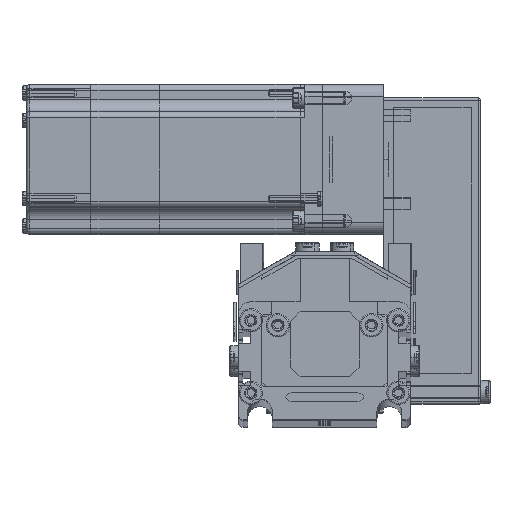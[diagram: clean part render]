
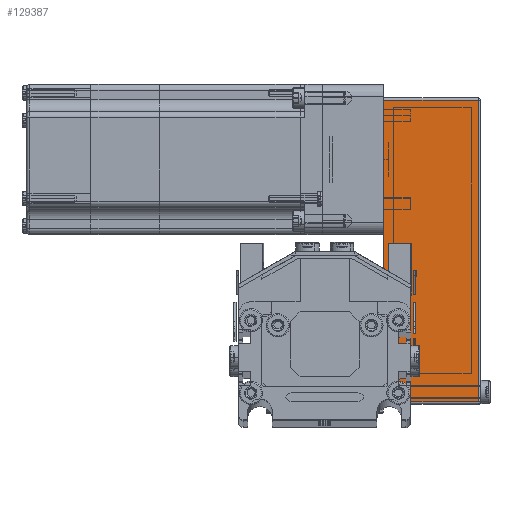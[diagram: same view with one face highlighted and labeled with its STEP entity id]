
A CAD part, top view. The second image highlights one B-rep face of the part: STEP entity #129387.
In plain terms, the highlighted planar face has unit normal (0, 0, 1) as drawn and (0, 1, 0) by its records, which use the part's own axes.
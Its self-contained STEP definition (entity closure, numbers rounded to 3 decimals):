
#90211 = DIRECTION ( 'NONE',  ( -1., 0., 0. ) ) ;
#90215 = VECTOR ( 'NONE', #90211, 1000. ) ;
#90240 = CARTESIAN_POINT ( 'NONE',  ( -50., 25., 0. ) ) ;
#90242 = LINE ( 'NONE', #90240, #90215 ) ;
#90247 = CARTESIAN_POINT ( 'NONE',  ( -49., 25., 0. ) ) ;
#90275 = CARTESIAN_POINT ( 'NONE',  ( 73.5, 25., 0. ) ) ;
#91209 = LINE ( 'NONE', #91294, #91288 ) ;
#91286 = DIRECTION ( 'NONE',  ( 1., 0., 0. ) ) ;
#91288 = VECTOR ( 'NONE', #91286, 1000. ) ;
#91294 = CARTESIAN_POINT ( 'NONE',  ( 74.5, 25., 38.5 ) ) ;
#92166 = DIRECTION ( 'NONE',  ( 0., 0., 1. ) ) ;
#92169 = VECTOR ( 'NONE', #92166, 1000. ) ;
#92180 = CARTESIAN_POINT ( 'NONE',  ( -49., 25., 39.5 ) ) ;
#92183 = LINE ( 'NONE', #92180, #92169 ) ;
#93713 = CARTESIAN_POINT ( 'NONE',  ( -49., 25., 38.5 ) ) ;
#128556 = VERTEX_POINT ( 'NONE', #90247 ) ;
#128567 = EDGE_CURVE ( 'NONE', #128595, #128556, #90242, .T. ) ;
#128595 = VERTEX_POINT ( 'NONE', #90275 ) ;
#128735 = ORIENTED_EDGE ( 'NONE', *, *, #128746, .T. ) ;
#128746 = EDGE_CURVE ( 'NONE', #128834, #129448, #91209, .T. ) ;
#128803 = ORIENTED_EDGE ( 'NONE', *, *, #128816, .T. ) ;
#128816 = EDGE_CURVE ( 'NONE', #128556, #128834, #92183, .T. ) ;
#128834 = VERTEX_POINT ( 'NONE', #93713 ) ;
#128960 = EDGE_LOOP ( 'NONE', ( #129145, #128803, #128735, #129431 ) ) ;
#129145 = ORIENTED_EDGE ( 'NONE', *, *, #128567, .T. ) ;
#129224 = EDGE_CURVE ( 'NONE', #129448, #128595, #134208, .T. ) ;
#129387 = ADVANCED_FACE ( 'NONE', ( #136369 ), #136263, .F. ) ;
#129431 = ORIENTED_EDGE ( 'NONE', *, *, #129224, .T. ) ;
#129448 = VERTEX_POINT ( 'NONE', #138150 ) ;
#134205 = DIRECTION ( 'NONE',  ( 0., 0., -1. ) ) ;
#134206 = VECTOR ( 'NONE', #134205, 1000. ) ;
#134207 = CARTESIAN_POINT ( 'NONE',  ( 73.5, 25., 39.5 ) ) ;
#134208 = LINE ( 'NONE', #134207, #134206 ) ;
#136263 = PLANE ( 'NONE',  #136365 ) ;
#136314 = CARTESIAN_POINT ( 'NONE',  ( -50., 25., 39.5 ) ) ;
#136318 = DIRECTION ( 'NONE',  ( 0., -1., 0. ) ) ;
#136355 = DIRECTION ( 'NONE',  ( 0., 0., -1. ) ) ;
#136365 = AXIS2_PLACEMENT_3D ( 'NONE', #136314, #136318, #136355 ) ;
#136369 = FACE_OUTER_BOUND ( 'NONE', #128960, .T. ) ;
#138150 = CARTESIAN_POINT ( 'NONE',  ( 73.5, 25., 38.5 ) ) ;
